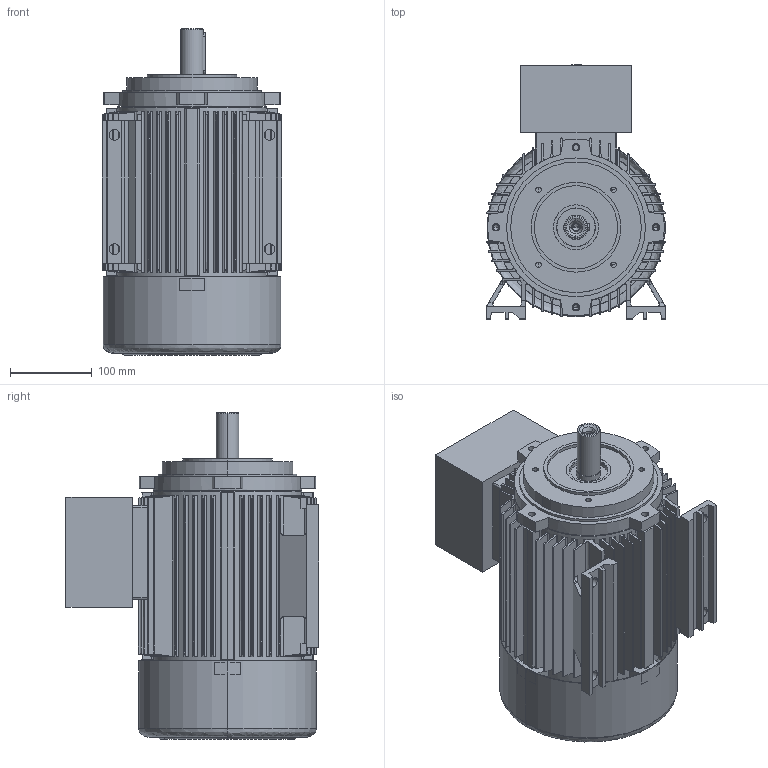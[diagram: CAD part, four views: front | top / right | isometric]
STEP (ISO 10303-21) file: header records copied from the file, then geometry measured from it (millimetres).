
FILE_DESCRIPTION (( 'STEP AP214' ), '1' );
FILE_NAME ('20.17501-F 5AT 112 B34_F130 Exde STANDK.STEP', '2018-11-15T10:30:20', ( '' ), ( '' ), 'SwSTEP 2.0', 'SolidWorks 2018', '' );
FILE_SCHEMA (( 'AUTOMOTIVE_DESIGN' ));
Length unit declared in the file: millimetre
Products named in the file (1): 20.17501-F 5AT 112 B34_F130 Exde STANDK
Bounding box: 220 x 311 x 399.8 mm (x, y, z)
Volume: 5603167.7 mm3; surface area: 1096055.4 mm2
Topology: 4 solids, 5 shells, 804 faces, 2089 edges, 1365 vertices
Faces by surface type: cylinder 353, plane 317, cone 120, bspline 14
Entity records: 35275 total; most frequent: CARTESIAN_POINT 9074, ORIENTED_EDGE 4130, DIRECTION 3752, EDGE_CURVE 2065, AXIS2_PLACEMENT_3D 1378, VERTEX_POINT 1365, VECTOR 996, LINE 996
